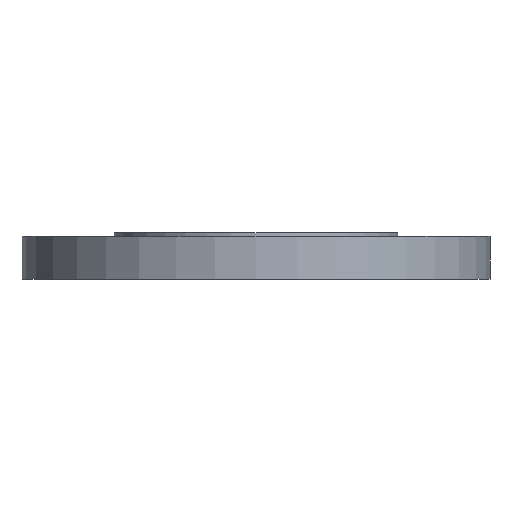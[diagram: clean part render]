
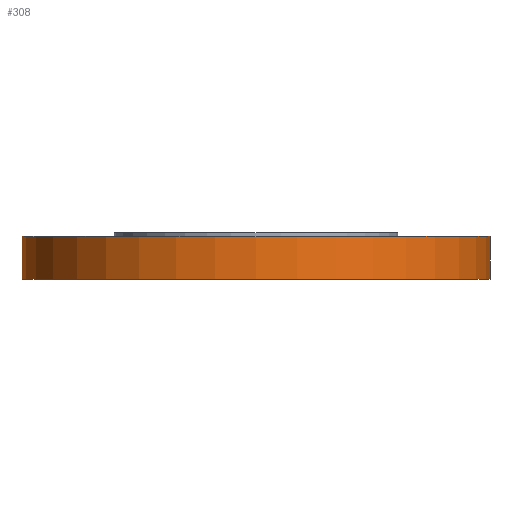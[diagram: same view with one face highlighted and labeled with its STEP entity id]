
A CAD part, front view. The second image highlights one B-rep face of the part: STEP entity #308.
In plain terms, the highlighted cylindrical face has radius 150 mm (diameter 300 mm), a partial arc.
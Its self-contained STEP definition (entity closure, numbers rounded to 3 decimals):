
#14 = AXIS2_PLACEMENT_3D ( 'NONE', #82, #408, #711 ) ;
#33 = EDGE_CURVE ( 'NONE', #217, #936, #544, .T. ) ;
#53 = AXIS2_PLACEMENT_3D ( 'NONE', #266, #596, #871 ) ;
#61 = ORIENTED_EDGE ( 'NONE', *, *, #627, .T. ) ;
#74 = ORIENTED_EDGE ( 'NONE', *, *, #33, .T. ) ;
#82 = CARTESIAN_POINT ( 'NONE',  ( 0., 0., -30. ) ) ;
#93 = CARTESIAN_POINT ( 'NONE',  ( 150., 0., -2.5 ) ) ;
#217 = VERTEX_POINT ( 'NONE', #93 ) ;
#247 = LINE ( 'NONE', #572, #568 ) ;
#266 = CARTESIAN_POINT ( 'NONE',  ( 0., 0., -85. ) ) ;
#285 = DIRECTION ( 'NONE',  ( -1., 0., 0. ) ) ;
#308 = ADVANCED_FACE ( 'NONE', ( #666 ), #935, .T. ) ;
#317 = LINE ( 'NONE', #642, #705 ) ;
#354 = ORIENTED_EDGE ( 'NONE', *, *, #648, .F. ) ;
#365 = VERTEX_POINT ( 'NONE', #600 ) ;
#408 = DIRECTION ( 'NONE',  ( 0., 0., -1. ) ) ;
#519 = ORIENTED_EDGE ( 'NONE', *, *, #622, .F. ) ;
#541 = AXIS2_PLACEMENT_3D ( 'NONE', #684, #953, #285 ) ;
#544 = CIRCLE ( 'NONE', #541, 150. ) ;
#558 = EDGE_LOOP ( 'NONE', ( #519, #354, #61, #74 ) ) ;
#559 = CARTESIAN_POINT ( 'NONE',  ( -150., 0., -2.5 ) ) ;
#565 = CARTESIAN_POINT ( 'NONE',  ( -150., 0., -30. ) ) ;
#568 = VECTOR ( 'NONE', #852, 1000. ) ;
#572 = CARTESIAN_POINT ( 'NONE',  ( 150., 0., -85. ) ) ;
#596 = DIRECTION ( 'NONE',  ( 0., 0., 1. ) ) ;
#600 = CARTESIAN_POINT ( 'NONE',  ( 150., 0., -30. ) ) ;
#622 = EDGE_CURVE ( 'NONE', #960, #936, #317, .T. ) ;
#627 = EDGE_CURVE ( 'NONE', #365, #217, #247, .T. ) ;
#642 = CARTESIAN_POINT ( 'NONE',  ( -150., 0., -85. ) ) ;
#648 = EDGE_CURVE ( 'NONE', #365, #960, #664, .T. ) ;
#664 = CIRCLE ( 'NONE', #14, 150. ) ;
#666 = FACE_OUTER_BOUND ( 'NONE', #558, .T. ) ;
#684 = CARTESIAN_POINT ( 'NONE',  ( 0., 0., -2.5 ) ) ;
#705 = VECTOR ( 'NONE', #915, 1000. ) ;
#711 = DIRECTION ( 'NONE',  ( -1., 0., 0. ) ) ;
#852 = DIRECTION ( 'NONE',  ( 0., 0., 1. ) ) ;
#871 = DIRECTION ( 'NONE',  ( 1., 0., 0. ) ) ;
#915 = DIRECTION ( 'NONE',  ( 0., 0., 1. ) ) ;
#935 = CYLINDRICAL_SURFACE ( 'NONE', #53, 150. ) ;
#936 = VERTEX_POINT ( 'NONE', #559 ) ;
#953 = DIRECTION ( 'NONE',  ( 0., 0., -1. ) ) ;
#960 = VERTEX_POINT ( 'NONE', #565 ) ;
